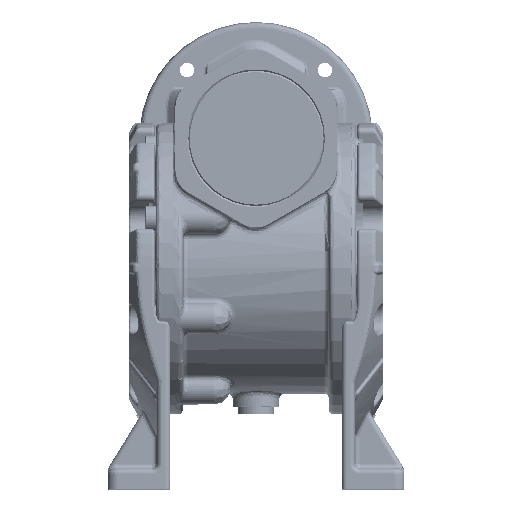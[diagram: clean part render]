
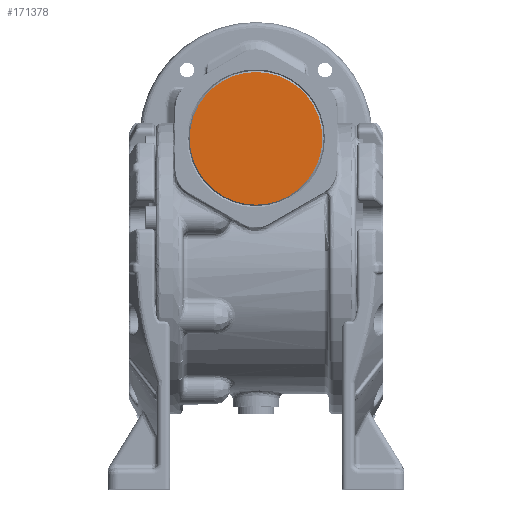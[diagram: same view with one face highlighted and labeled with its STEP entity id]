
A CAD part, top view. The second image highlights one B-rep face of the part: STEP entity #171378.
In plain terms, the highlighted planar face has unit normal (0, 0, 1).
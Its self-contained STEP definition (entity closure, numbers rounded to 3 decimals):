
#21320 = CARTESIAN_POINT ( 'NONE',  ( 25.5, 0., 0. ) ) ;
#21325 = DIRECTION ( 'NONE',  ( -1., 0., 0. ) ) ;
#21327 = DIRECTION ( 'NONE',  ( 0., 0., 1. ) ) ;
#21328 = CARTESIAN_POINT ( 'NONE',  ( 0., 0., 0. ) ) ;
#21330 = AXIS2_PLACEMENT_3D ( 'NONE', #21328, #21327, #21325 ) ;
#21331 = CIRCLE ( 'NONE', #21330, 25.5 ) ;
#21424 = CARTESIAN_POINT ( 'NONE',  ( -25.5, 0., 0. ) ) ;
#171378 = ADVANCED_FACE ( 'NONE', ( #197922 ), #197908, .T. ) ;
#171384 = EDGE_LOOP ( 'NONE', ( #171395, #171406 ) ) ;
#171395 = ORIENTED_EDGE ( 'NONE', *, *, #171400, .T. ) ;
#171400 = EDGE_CURVE ( 'NONE', #224111, #224103, #198004, .T. ) ;
#171406 = ORIENTED_EDGE ( 'NONE', *, *, #224099, .T. ) ;
#197903 = DIRECTION ( 'NONE',  ( 0., -1., 0. ) ) ;
#197904 = DIRECTION ( 'NONE',  ( 0., 0., 1. ) ) ;
#197905 = CARTESIAN_POINT ( 'NONE',  ( -25.806, 25.806, 0. ) ) ;
#197906 = AXIS2_PLACEMENT_3D ( 'NONE', #197905, #197904, #197903 ) ;
#197908 = PLANE ( 'NONE',  #197906 ) ;
#197922 = FACE_OUTER_BOUND ( 'NONE', #171384, .T. ) ;
#198000 = DIRECTION ( 'NONE',  ( -1., 0., 0. ) ) ;
#198001 = DIRECTION ( 'NONE',  ( 0., 0., 1. ) ) ;
#198002 = CARTESIAN_POINT ( 'NONE',  ( 0., 0., 0. ) ) ;
#198003 = AXIS2_PLACEMENT_3D ( 'NONE', #198002, #198001, #198000 ) ;
#198004 = CIRCLE ( 'NONE', #198003, 25.5 ) ;
#224099 = EDGE_CURVE ( 'NONE', #224103, #224111, #21331, .T. ) ;
#224103 = VERTEX_POINT ( 'NONE', #21320 ) ;
#224111 = VERTEX_POINT ( 'NONE', #21424 ) ;
